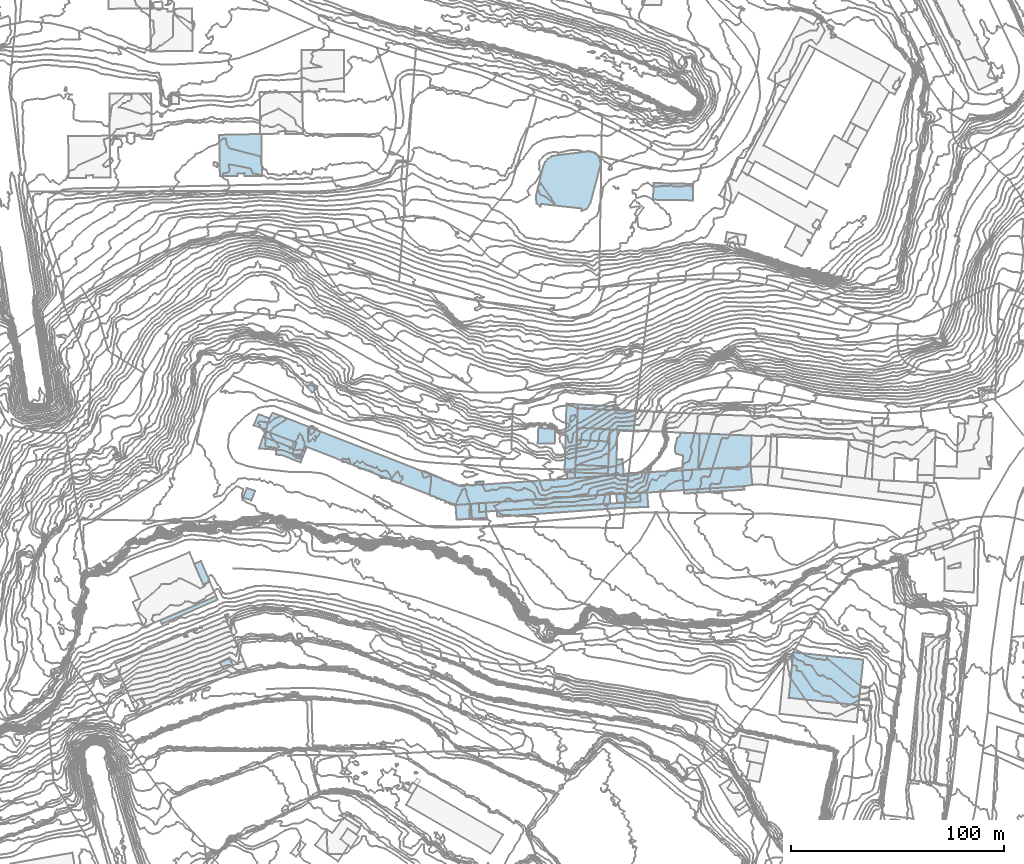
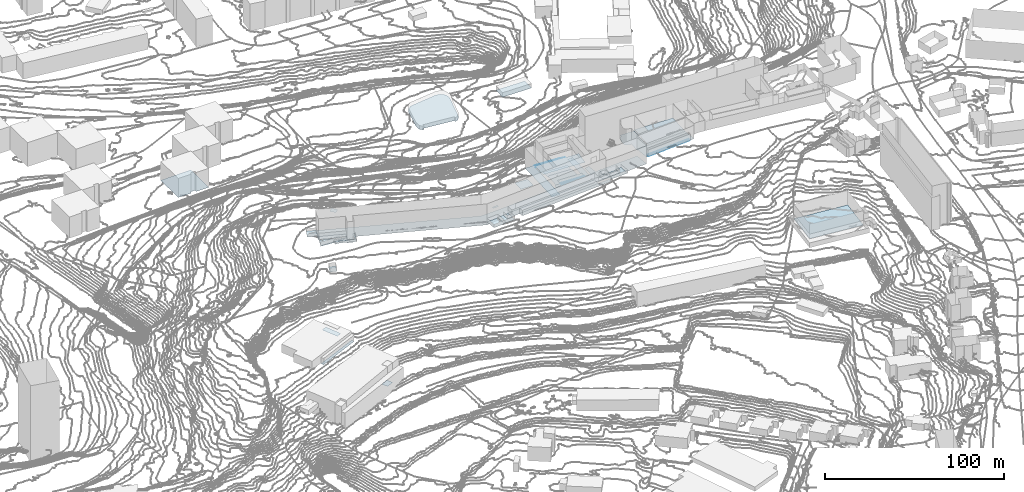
# Not in any storey, part 8 of 419: 39 footings.
"""IFC2X3 model written with IfcOpenShell, lengths in metres."""

from ifc_helpers import new_model, si_unit, frame, origin_with_axes, place, context, subcontext, project, faceted_brep, element, save


model = new_model("IFC2X3")

# Units and contexts
model_context = context("Model", 3, precision=1e-05, world=origin_with_axes())
body_context = subcontext(model_context, "Body", "Model", "MODEL_VIEW")
ifc_project = project(units=[si_unit("AREAUNIT", "SQUARE_METRE"), si_unit("LENGTHUNIT", "METRE")], contexts=[model_context])

# Footings
footing_1_placement = place(None, frame((482.4920204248, 335.3976909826, 61.9800003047), z_axis=(0.0, 0.0, 1.0), x_axis=(1.0, 0.0, 0.0)))
element("IfcFooting", 1, at=footing_1_placement, Name="Sol 0", PredefinedType="STRIP_FOOTING", context=body_context, shape_type="Brep", body=[
    faceted_brep([(0.0, 0.0, 0.0), (0.2999999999, 7.2000000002, 0.0), (8.1, 6.7000000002, 0.0), (8.0, -0.2000000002, 0.0)], [[[0, 1, 2]], [[2, 3, 0]]]),
])
footing_2_placement = place(None, frame((500.8920204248, 342.6976909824, 62.8028995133), z_axis=(0.0, 0.0, 1.0), x_axis=(1.0, 0.0, 0.0)))
element("IfcFooting", 2, at=footing_2_placement, Name="Sol 0", PredefinedType="STRIP_FOOTING", context=body_context, shape_type="Brep", body=[
    faceted_brep([(0.0, 0.0, 0.0), (15.5, -0.7999999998, 0.0), (15.0, -6.5, 0.0), (0.1, -5.7000000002, 0.0)], [[[0, 1, 2]], [[2, 3, 0]]]),
])
footing_3_placement = place(None, frame((523.5920204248, 307.5976909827, 72.433000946), z_axis=(0.0, 0.0, 1.0), x_axis=(1.0, 0.0, 0.0)))
element("IfcFooting", 3, at=footing_3_placement, Name="Sol 0", PredefinedType="STRIP_FOOTING", context=body_context, shape_type="Brep", body=[
    faceted_brep([(7.1, 0.5, 0.0), (0.0, 0.0, 0.0), (0.5, 4.5, 0.0), (6.9, 4.7000000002, 0.0)], [[[0, 1, 2]], [[2, 3, 0]]]),
])
footing_4_placement = place(None, frame((600.1920204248, 216.0976909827, 59.4442009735), z_axis=(0.0, 0.0, 1.0), x_axis=(1.0, 0.0, 0.0)))
element("IfcFooting", 4, at=footing_4_placement, Name="Sol 0", PredefinedType="STRIP_FOOTING", context=body_context, shape_type="Brep", body=[
    faceted_brep([(0.0, 0.0, 0.0), (2.0, 20.2999999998, 0.0), (2.1, 21.2999999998, 0.0), (34.9, 17.8999999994, 0.0), (32.7000000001, -3.5, 0.0)], [[[0, 1, 2]], [[3, 4, 0]], [[0, 2, 3]]]),
])
footing_5_placement = place(None, frame((453.3920204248, 316.0976909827, 70.8680007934), z_axis=(0.0, 0.0, 1.0), x_axis=(1.0, 0.0, 0.0)))
element("IfcFooting", 5, at=footing_5_placement, Name="Sol 0", PredefinedType="STRIP_FOOTING", context=body_context, shape_type="Brep", body=[
    faceted_brep([(3.7, 1.5, 0.0), (3.7999999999, 0.0, 0.0), (0.0, 0.0, 0.0), (0.0, 1.2000000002, 0.0)], [[[0, 1, 2]], [[2, 3, 0]]]),
])
footing_6_placement = place(None, frame((454.9920204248, 307.3976909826, 71.1009986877), z_axis=(0.0, 0.0, 1.0), x_axis=(1.0, 0.0, 0.0)))
element("IfcFooting", 6, at=footing_6_placement, Name="Sol 0", PredefinedType="STRIP_FOOTING", context=body_context, shape_type="Brep", body=[
    faceted_brep([(3.1, 0.0999999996, 0.0), (3.2999999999, -4.0, 0.0), (0.1, -4.2000000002, 0.0), (0.0, 0.0, 0.0)], [[[0, 1, 2]], [[2, 3, 0]]]),
])
footing_7_placement = place(None, frame((359.6920204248, 332.3976909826, 70.7447981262), z_axis=(0.0, 0.0, 1.0), x_axis=(1.0, 0.0, 0.0)))
element("IfcFooting", 7, at=footing_7_placement, Name="Sol 0", PredefinedType="STRIP_FOOTING", context=body_context, shape_type="Brep", body=[
    faceted_brep([(13.4, 1.7000000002, 0.0), (14.5, 1.2999999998, 0.0), (11.6, -6.0, 0.0), (0.0, 0.0, 0.0), (3.0, -0.2000000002, 0.0), (11.5, -3.2999999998, 0.0), (2.7000000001, -2.5, 0.0), (0.1, -2.2999999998, 0.0)], [[[0, 1, 2]], [[3, 4, 5]], [[6, 7, 3]], [[5, 0, 2]], [[6, 3, 5]], [[5, 2, 6]]]),
])
footing_8_placement = place(None, frame((353.7920204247, 338.4976909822, 70.8936001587), z_axis=(0.0, 0.0, 1.0), x_axis=(1.0, 0.0, 0.0)))
element("IfcFooting", 8, at=footing_8_placement, Name="Sol 0", PredefinedType="STRIP_FOOTING", context=body_context, shape_type="Brep", body=[
    faceted_brep([(14.6000000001, -5.6999999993, 0.0), (0.0, 0.0, 0.0), (1.1000000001, 2.6000000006, 0.0), (15.6000000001, -2.7999999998, 0.0)], [[[0, 1, 2]], [[2, 3, 0]]]),
])
footing_9_placement = place(None, frame((496.2920204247, 318.7976909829, 68.0380012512), z_axis=(0.0, 0.0, 1.0), x_axis=(1.0, 0.0, 0.0)))
element("IfcFooting", 9, at=footing_9_placement, Name="Sol 0", PredefinedType="STRIP_FOOTING", context=body_context, shape_type="Brep", body=[
    faceted_brep([(0.0, 0.0, 0.0), (0.1000000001, 3.0999999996, 0.0), (3.8, 2.8999999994, 0.0), (3.7000000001, 0.3999999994, 0.0)], [[[0, 1, 2]], [[2, 3, 0]]]),
])
footing_10_placement = place(None, frame((500.1920204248, 325.2976909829, 63.6840002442), z_axis=(0.0, 0.0, 1.0), x_axis=(1.0, 0.0, 0.0)))
element("IfcFooting", 10, at=footing_10_placement, Name="Sol 0", PredefinedType="STRIP_FOOTING", context=body_context, shape_type="Brep", body=[
    faceted_brep([(0.8, 11.6999999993, 0.0), (15.7000000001, 10.8999999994, 0.0), (15.5, -0.7000000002, 0.0), (0.0, 0.0, 0.0)], [[[0, 1, 2]], [[2, 3, 0]]]),
])
footing_11_placement = place(None, frame((500.8920204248, 342.6976909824, 61.1534983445), z_axis=(0.0, 0.0, 1.0), x_axis=(1.0, 0.0, 0.0)))
element("IfcFooting", 11, at=footing_11_placement, Name="Sol 0", PredefinedType="STRIP_FOOTING", context=body_context, shape_type="Brep", body=[
    faceted_brep([(0.3999999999, 9.0, 0.0), (27.7, 7.7999999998, 0.0), (26.6, -1.2999999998, 0.0), (0.0, 0.0, 0.0)], [[[0, 1, 2]], [[2, 3, 0]]]),
])
footing_12_placement = place(None, frame((519.2920204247, 311.4976909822, 72.7560012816), z_axis=(0.0, 0.0, 1.0), x_axis=(1.0, 0.0, 0.0)))
element("IfcFooting", 12, at=footing_12_placement, Name="Sol 0", PredefinedType="STRIP_FOOTING", context=body_context, shape_type="Brep", body=[
    faceted_brep([(3.8, 0.3000000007, 0.0), (4.3, -3.8999999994, 0.0), (0.5, -4.0, 0.0), (0.0, 0.0, 0.0)], [[[0, 1, 2]], [[2, 3, 0]]]),
])
footing_13_placement = place(None, frame((443.9920204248, 306.4976909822, 70.7701998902), z_axis=(0.0, 0.0, 1.0), x_axis=(1.0, 0.0, 0.0)))
element("IfcFooting", 13, at=footing_13_placement, Name="Sol 0", PredefinedType="STRIP_FOOTING", context=body_context, shape_type="Brep", body=[
    faceted_brep([(0.0, 0.0, 0.0), (7.2, 0.5, 0.0), (7.7, -6.3999999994, 0.0), (0.5, -6.8999999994, 0.0)], [[[0, 1, 2]], [[2, 3, 0]]]),
])
footing_14_placement = place(None, frame((458.0920204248, 307.4976909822, 71.2509986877), z_axis=(0.0, 0.0, 1.0), x_axis=(1.0, 0.0, 0.0)))
element("IfcFooting", 14, at=footing_14_placement, Name="Sol 0", PredefinedType="STRIP_FOOTING", context=body_context, shape_type="Brep", body=[
    faceted_brep([(58.2, 3.9000000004, 0.0), (58.2, -0.3999999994, 0.0), (5.2, -3.6999999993, 0.0), (0.2, -4.0999999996, 0.0), (0.0, 0.0, 0.0)], [[[0, 1, 2]], [[3, 4, 0]], [[0, 2, 3]]]),
])
footing_15_placement = place(None, frame((546.8920204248, 331.6976909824, 72.5606993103), z_axis=(0.0, 0.0, 1.0), x_axis=(1.0, 0.0, 0.0)))
element("IfcFooting", 15, at=footing_15_placement, Name="Sol 0", PredefinedType="STRIP_FOOTING", context=body_context, shape_type="Brep", body=[
    faceted_brep([(0.0, 0.0, 0.0), (0.0, 2.0, 0.0), (1.0, 6.2000000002, 0.0), (3.7, -2.0999999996, 0.0), (0.6, -1.2000000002, 0.0), (10.7999999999, -8.3999999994, 0.0), (3.3999999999, -9.0, 0.0), (2.5, 8.7000000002, 0.0), (11.6, 8.2999999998, 0.0), (2.3999999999, 7.2999999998, 0.0)], [[[0, 1, 2]], [[3, 4, 0]], [[5, 6, 3]], [[7, 8, 5]], [[0, 2, 9]], [[7, 5, 3]], [[3, 0, 9]], [[9, 7, 3]]]),
])
footing_16_placement = place(None, frame((501.2920204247, 351.6976909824, 60.5035990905), z_axis=(0.0, 0.0, 1.0), x_axis=(1.0, 0.0, 0.0)))
element("IfcFooting", 16, at=footing_16_placement, Name="Sol 0", PredefinedType="STRIP_FOOTING", context=body_context, shape_type="Brep", body=[
    faceted_brep([(19.4, 0.2000000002, 0.0), (19.3, -0.8999999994, 0.0), (0.0, 0.0, 0.0), (0.1000000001, 1.9000000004, 0.0), (15.7000000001, 1.1000000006, 0.0)], [[[0, 1, 2]], [[3, 4, 0]], [[0, 2, 3]]]),
])
footing_17_placement = place(None, frame((351.7920204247, 332.9976909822, 70.4999981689), z_axis=(0.0, 0.0, 1.0), x_axis=(1.0, 0.0, 0.0)))
element("IfcFooting", 17, at=footing_17_placement, Name="Sol 0", PredefinedType="STRIP_FOOTING", context=body_context, shape_type="Brep", body=[
    faceted_brep([(10.9, -0.7999999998, 0.0), (7.9, -0.5999999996, 0.0), (0.0, 0.0, 0.0), (16.6000000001, -0.1999999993, 0.0), (15.6000000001, -2.5999999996, 0.0), (2.0, 5.5, 0.0)], [[[0, 1, 2]], [[3, 4, 0]], [[2, 5, 3]], [[3, 0, 2]]]),
])
footing_18_placement = place(None, frame((349.2920204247, 343.7976909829, 70.8820007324), z_axis=(0.0, 0.0, 1.0), x_axis=(1.0, 0.0, 0.0)))
element("IfcFooting", 18, at=footing_18_placement, Name="Sol 0", PredefinedType="STRIP_FOOTING", context=body_context, shape_type="Brep", body=[
    faceted_brep([(7.5, 3.2999999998, 0.0), (5.8, -2.0, 0.0), (0.0, 0.0, 0.0), (2.3, 5.1999999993, 0.0)], [[[0, 1, 2]], [[2, 3, 0]]]),
])
footing_19_placement = place(None, frame((463.2920204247, 303.7976909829, 71.4100021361), z_axis=(0.0, 0.0, 1.0), x_axis=(1.0, 0.0, 0.0)))
element("IfcFooting", 19, at=footing_19_placement, Name="Sol 0", PredefinedType="STRIP_FOOTING", context=body_context, shape_type="Brep", body=[
    faceted_brep([(60.3, 3.7999999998, 0.0), (60.0, 1.3999999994, 0.0), (0.3, -2.8000000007, 0.0), (0.0, 0.0, 0.0)], [[[0, 1, 2]], [[2, 3, 0]]]),
])
footing_20_placement = place(None, frame((519.1920204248, 320.3976909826, 68.262001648), z_axis=(0.0, 0.0, 1.0), x_axis=(1.0, 0.0, 0.0)))
element("IfcFooting", 20, at=footing_20_placement, Name="Sol 0", PredefinedType="STRIP_FOOTING", context=body_context, shape_type="Brep", body=[
    faceted_brep([(3.0, 7.5999999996, 0.0), (3.7000000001, 0.5, 0.0), (0.0, 0.0, 0.0), (0.3, 7.2999999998, 0.0)], [[[0, 1, 2]], [[2, 3, 0]]]),
])
footing_21_placement = place(None, frame((495.0920204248, 321.9976909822, 60.5035990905), z_axis=(0.0, 0.0, 1.0), x_axis=(1.0, 0.0, 0.0)))
element("IfcFooting", 21, at=footing_21_placement, Name="Sol 0", PredefinedType="STRIP_FOOTING", context=body_context, shape_type="Brep", body=[
    faceted_brep([(6.3, 31.6000000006, 0.0), (5.0, -0.2999999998, 0.0), (0.0, 0.0, 0.0), (0.9, 32.0, 0.0)], [[[0, 1, 2]], [[2, 3, 0]]]),
])
footing_22_placement = place(None, frame((374.3920204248, 361.8976909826, 68.7120025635), z_axis=(0.0, 0.0, 1.0), x_axis=(1.0, 0.0, 0.0)))
element("IfcFooting", 22, at=footing_22_placement, Name="Sol 0", PredefinedType="STRIP_FOOTING", context=body_context, shape_type="Brep", body=[
    faceted_brep([(2.3999999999, 2.2999999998, 0.0), (4.7, -0.7000000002, 0.0), (2.2999999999, -2.7000000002, 0.0), (0.0, 0.0, 0.0)], [[[0, 1, 2]], [[2, 3, 0]]]),
])
footing_23_placement = place(None, frame((551.0920204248, 311.7976909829, 74.7885005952), z_axis=(0.0, 0.0, 1.0), x_axis=(1.0, 0.0, 0.0)))
element("IfcFooting", 23, at=footing_23_placement, Name="Sol 0", PredefinedType="STRIP_FOOTING", context=body_context, shape_type="Brep", body=[
    faceted_brep([(0.0, 0.0, 0.0), (0.0, 1.6999999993, 0.0), (28.1, 3.5, 0.0), (28.3, 1.8999999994, 0.0)], [[[0, 1, 2]], [[2, 3, 0]]]),
])
footing_24_placement = place(None, frame((550.2920204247, 322.6976909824, 73.3091989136), z_axis=(0.0, 0.0, 1.0), x_axis=(1.0, 0.0, 0.0)))
element("IfcFooting", 24, at=footing_24_placement, Name="Sol 0", PredefinedType="STRIP_FOOTING", context=body_context, shape_type="Brep", body=[
    faceted_brep([(28.9, -7.3999999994, 0.0), (0.8, -9.2000000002, 0.0), (0.0, 0.0, 0.0), (32.0, 1.7999999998, 0.0), (32.9, -6.7999999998, 0.0)], [[[0, 1, 2]], [[3, 4, 0]], [[0, 2, 3]]]),
])
footing_25_placement = place(None, frame((524.0920204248, 312.0976909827, 68.7560028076), z_axis=(0.0, 0.0, 1.0), x_axis=(1.0, 0.0, 0.0)))
element("IfcFooting", 25, at=footing_25_placement, Name="Sol 0", PredefinedType="STRIP_FOOTING", context=body_context, shape_type="Brep", body=[
    faceted_brep([(27.0, 1.3999999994, 0.0), (9.7, 0.2000000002, 0.0), (0.0, 0.0, 0.0), (1.1, 9.2999999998, 0.0), (26.2, 10.5999999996, 0.0)], [[[0, 1, 2]], [[3, 4, 0]], [[0, 2, 3]]]),
])
footing_26_placement = place(None, frame((523.2920204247, 305.1976909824, 73.017001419), z_axis=(0.0, 0.0, 1.0), x_axis=(1.0, 0.0, 0.0)))
element("IfcFooting", 26, at=footing_26_placement, Name="Sol 0", PredefinedType="STRIP_FOOTING", context=body_context, shape_type="Brep", body=[
    faceted_brep([(11.1000000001, 0.4000000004, 0.0), (0.0, 0.0, 0.0), (0.3, 2.4000000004, 0.0), (7.2000000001, 7.1000000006, 0.0), (10.5, 7.1000000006, 0.0), (7.4, 2.9000000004, 0.0)], [[[0, 1, 2]], [[3, 4, 0]], [[0, 2, 5]], [[5, 3, 0]]]),
])
footing_27_placement = place(None, frame((451.1920204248, 306.9976909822, 70.9462012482), z_axis=(0.0, 0.0, 1.0), x_axis=(1.0, 0.0, 0.0)))
element("IfcFooting", 27, at=footing_27_placement, Name="Sol 0", PredefinedType="STRIP_FOOTING", context=body_context, shape_type="Brep", body=[
    faceted_brep([(3.9, -3.7999999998, 0.0), (7.1, -3.5999999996, 0.0), (7.5, -6.5, 0.0), (0.0, 0.0, 0.0), (3.8, 0.4000000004, 0.0), (0.5, -6.8999999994, 0.0)], [[[0, 1, 2]], [[3, 4, 0]], [[0, 2, 5]], [[5, 3, 0]]]),
])
footing_28_placement = place(None, frame((536.5920204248, 449.5976909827, 36.7559989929), z_axis=(0.0, 0.0, 1.0), x_axis=(1.0, 0.0, 0.0)))
element("IfcFooting", 28, at=footing_28_placement, Name="Sol 0", PredefinedType="STRIP_FOOTING", context=body_context, shape_type="Brep", body=[
    faceted_brep([(18.7, 7.3999999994, 0.0), (18.6, -0.2999999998, 0.0), (0.0, 0.0, 0.0), (0.2, 7.7999999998, 0.0)], [[[0, 1, 2]], [[2, 3, 0]]]),
])
footing_29_placement = place(None, frame((321.4920204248, 278.8976909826, 56.6435998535), z_axis=(0.0, 0.0, 1.0), x_axis=(1.0, 0.0, 0.0)))
element("IfcFooting", 29, at=footing_29_placement, Name="Sol 0", PredefinedType="STRIP_FOOTING", context=body_context, shape_type="Brep", body=[
    faceted_brep([(4.2, -9.5999999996, 0.0), (0.0, 0.0, 0.0), (3.2, 1.2999999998, 0.0), (7.2999999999, -8.2999999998, 0.0)], [[[0, 1, 2]], [[2, 3, 0]]]),
])
footing_30_placement = place(None, frame((354.8920204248, 341.0976909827, 68.7560028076), z_axis=(0.0, 0.0, 1.0), x_axis=(1.0, 0.0, 0.0)))
element("IfcFooting", 30, at=footing_30_placement, Name="Sol 0", PredefinedType="STRIP_FOOTING", context=body_context, shape_type="Brep", body=[
    faceted_brep([(170.2999999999, -19.7000000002, 0.0), (169.2, -29.0, 0.0), (89.1, -34.6000000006, 0.0), (1.8999999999, 6.0, 0.0), (3.2, 8.5999999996, 0.0), (90.5, -25.4000000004, 0.0), (14.5, -5.4000000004, 0.0), (0.0, 0.0, 0.0), (16.2999999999, -12.0, 0.0), (12.5, -10.7000000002, 0.0), (164.2999999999, -20.7000000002, 0.0), (18.2, -7.0, 0.0), (102.2999999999, -25.0, 0.0)], [[[0, 1, 2]], [[3, 4, 5]], [[6, 7, 3]], [[8, 9, 6]], [[10, 0, 2]], [[6, 3, 5]], [[11, 8, 6]], [[12, 10, 2]], [[11, 6, 5]], [[5, 12, 2]], [[2, 11, 5]]]),
])
footing_31_placement = place(None, frame((515.3920204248, 320.1976909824, 66.7630004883), z_axis=(0.0, 0.0, 1.0), x_axis=(1.0, 0.0, 0.0)))
element("IfcFooting", 31, at=footing_31_placement, Name="Sol 0", PredefinedType="STRIP_FOOTING", context=body_context, shape_type="Brep", body=[
    faceted_brep([(4.5, 21.7000000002, 0.0), (3.7999999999, 0.2000000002, 0.0), (0.0, 0.0, 0.0), (1.0, 21.7000000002, 0.0)], [[[0, 1, 2]], [[2, 3, 0]]]),
])
footing_32_placement = place(None, frame((500.0920204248, 321.6976909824, 67.9910018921), z_axis=(0.0, 0.0, 1.0), x_axis=(1.0, 0.0, 0.0)))
element("IfcFooting", 32, at=footing_32_placement, Name="Sol 0", PredefinedType="STRIP_FOOTING", context=body_context, shape_type="Brep", body=[
    faceted_brep([(0.1, 3.6000000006, 0.0), (15.6, 2.9000000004, 0.0), (15.3, -0.5, 0.0), (0.0, 0.0, 0.0)], [[[0, 1, 2]], [[2, 3, 0]]]),
])
footing_33_placement = place(None, frame((557.6920204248, 323.2976909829, 73.4162023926), z_axis=(0.0, 0.0, 1.0), x_axis=(1.0, 0.0, 0.0)))
element("IfcFooting", 33, at=footing_33_placement, Name="Sol 0", PredefinedType="STRIP_FOOTING", context=body_context, shape_type="Brep", body=[
    faceted_brep([(24.6, 1.1999999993, 0.0), (0.0, 0.0, 0.0), (0.8, 16.6999999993, 0.0), (25.1, 15.6999999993, 0.0)], [[[0, 1, 2]], [[2, 3, 0]]]),
])
footing_34_placement = place(None, frame((333.1920204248, 479.9976909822, 32.7179985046), z_axis=(0.0, 0.0, 1.0), x_axis=(1.0, 0.0, 0.0)))
element("IfcFooting", 34, at=footing_34_placement, Name="Sol 0", PredefinedType="STRIP_FOOTING", context=body_context, shape_type="Brep", body=[
    faceted_brep([(8.6, -18.0999999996, 0.0), (8.6, -19.3999999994, 0.0), (0.3, -19.3999999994, 0.0), (20.0, -19.3999999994, 0.0), (11.8, -19.2999999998, 0.0), (11.8, -18.0, 0.0), (0.0, 0.0, 0.0), (19.8, 0.4000000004, 0.0)], [[[0, 1, 2]], [[3, 4, 5]], [[6, 7, 3]], [[0, 2, 6]], [[6, 3, 5]], [[5, 0, 6]]]),
])
footing_35_placement = place(None, frame((499.9920204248, 319.1976909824, 68.3109996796), z_axis=(0.0, 0.0, 1.0), x_axis=(1.0, 0.0, 0.0)))
element("IfcFooting", 35, at=footing_35_placement, Name="Sol 0", PredefinedType="STRIP_FOOTING", context=body_context, shape_type="Brep", body=[
    faceted_brep([(0.1, 2.5, 0.0), (15.4, 2.0, 0.0), (15.4, 1.0, 0.0), (0.0, 0.0, 0.0)], [[[0, 1, 2]], [[2, 3, 0]]]),
])
footing_36_placement = place(None, frame((305.5920204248, 252.4976909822, 55.1826000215), z_axis=(0.0, 0.0, 1.0), x_axis=(1.0, 0.0, 0.0)))
element("IfcFooting", 36, at=footing_36_placement, Name="Sol 0", PredefinedType="STRIP_FOOTING", context=body_context, shape_type="Brep", body=[
    faceted_brep([(26.9, 9.6000000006, 0.0), (0.7, -1.6999999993, 0.0), (0.0, 0.0, 0.0), (26.2, 11.3000000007, 0.0)], [[[0, 1, 2]], [[2, 3, 0]]]),
])
footing_37_placement = place(None, frame((344.3920204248, 309.8976909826, 69.3180000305), z_axis=(0.0, 0.0, 1.0), x_axis=(1.0, 0.0, 0.0)))
element("IfcFooting", 37, at=footing_37_placement, Name="Sol 0", PredefinedType="STRIP_FOOTING", context=body_context, shape_type="Brep", body=[
    faceted_brep([(5.6, 3.2000000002, 0.0), (3.7999999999, -1.2000000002, 0.0), (0.0, 0.0, 0.0), (1.7, 4.5999999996, 0.0)], [[[0, 1, 2]], [[2, 3, 0]]]),
])
footing_38_placement = place(None, frame((481.6920204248, 451.4976909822, 34.9703996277), z_axis=(0.0, 0.0, 1.0), x_axis=(1.0, 0.0, 0.0)))
element("IfcFooting", 38, at=footing_38_placement, Name="Sol 0", PredefinedType="STRIP_FOOTING", context=body_context, shape_type="Brep", body=[
    faceted_brep([(23.7000000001, -6.1999999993, 0.0), (21.4, -7.1999999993, 0.0), (21.4, -6.0, 0.0), (30.2000000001, 14.4000000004, 0.0), (25.5, -3.5, 0.0), (29.1, 18.9000000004, 0.0), (30.1, 16.9000000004, 0.0), (24.9, 20.8000000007, 0.0), (27.7000000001, 20.1000000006, 0.0), (7.4, 18.5, 0.0), (8.8, 18.8000000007, 0.0), (4.2000000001, 15.8000000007, 0.0), (5.4, 17.2000000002, 0.0), (0.0, 0.0, 0.0), (3.3, 13.7000000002, 0.0), (1.8, -5.0999999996, 0.0), (0.2000000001, -3.6999999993, 0.0), (2.3, -3.8999999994, 0.0), (2.2000000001, -5.0999999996, 0.0)], [[[0, 1, 2]], [[3, 4, 0]], [[5, 6, 3]], [[7, 8, 5]], [[9, 10, 7]], [[11, 12, 9]], [[13, 14, 11]], [[15, 16, 13]], [[17, 18, 15]], [[0, 2, 17]], [[5, 3, 0]], [[9, 7, 5]], [[13, 11, 9]], [[17, 15, 13]], [[5, 0, 17]], [[13, 9, 5]], [[5, 17, 13]]]),
])
footing_39_placement = place(None, frame((333.3920204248, 232.8976909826, 43.2073001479), z_axis=(0.0, 0.0, 1.0), x_axis=(1.0, 0.0, 0.0)))
element("IfcFooting", 39, at=footing_39_placement, Name="Sol 0", PredefinedType="STRIP_FOOTING", context=body_context, shape_type="Brep", body=[
    faceted_brep([(6.2, -1.5, 0.0), (1.8999999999, -3.4000000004, 0.0), (0.0, 0.0, 0.0), (4.6, 2.0999999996, 0.0)], [[[0, 1, 2]], [[2, 3, 0]]]),
])

save(model, "model.ifc")
